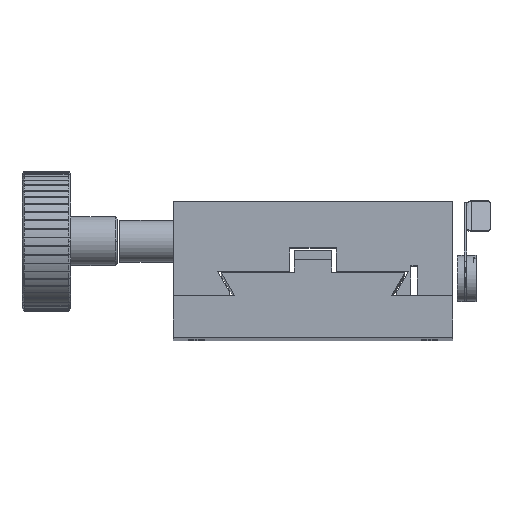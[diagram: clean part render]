
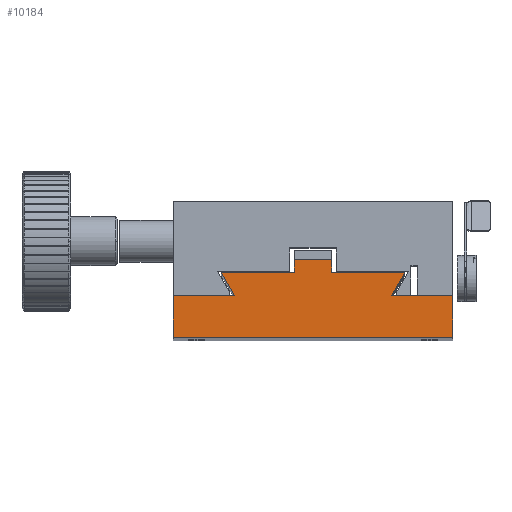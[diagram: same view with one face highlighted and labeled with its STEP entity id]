
A CAD part, top view. The second image highlights one B-rep face of the part: STEP entity #10184.
In plain terms, the highlighted planar face has unit normal (0, 0, -1).
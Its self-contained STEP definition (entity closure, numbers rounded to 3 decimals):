
#60 = LINE ( 'NONE', #8558, #4220 ) ;
#63 = CARTESIAN_POINT ( 'NONE',  ( 0.101, 8.545, 600. ) ) ;
#171 = DIRECTION ( 'NONE',  ( 1., 0., 0. ) ) ;
#310 = FACE_OUTER_BOUND ( 'NONE', #7771, .T. ) ;
#417 = ORIENTED_EDGE ( 'NONE', *, *, #874, .F. ) ;
#512 = LINE ( 'NONE', #1115, #8360 ) ;
#801 = LINE ( 'NONE', #828, #5624 ) ;
#828 = CARTESIAN_POINT ( 'NONE',  ( 26.101, -5.455, 600. ) ) ;
#869 = EDGE_CURVE ( 'NONE', #1670, #1712, #60, .T. ) ;
#874 = EDGE_CURVE ( 'NONE', #10921, #7310, #1864, .T. ) ;
#907 = DIRECTION ( 'NONE',  ( 0., 1., 0. ) ) ;
#980 = CARTESIAN_POINT ( 'NONE',  ( -3.899, -5.455, 600. ) ) ;
#1115 = CARTESIAN_POINT ( 'NONE',  ( -33.899, -5.455, 600. ) ) ;
#1134 = EDGE_CURVE ( 'NONE', #8257, #8802, #2141, .T. ) ;
#1408 = VECTOR ( 'NONE', #1958, 1000. ) ;
#1431 = ORIENTED_EDGE ( 'NONE', *, *, #869, .F. ) ;
#1670 = VERTEX_POINT ( 'NONE', #6962 ) ;
#1712 = VERTEX_POINT ( 'NONE', #5231 ) ;
#1864 = LINE ( 'NONE', #5067, #9166 ) ;
#1948 = DIRECTION ( 'NONE',  ( 0., -1., 0. ) ) ;
#1958 = DIRECTION ( 'NONE',  ( -1., 0., 0. ) ) ;
#1987 = CARTESIAN_POINT ( 'NONE',  ( -33.899, -5.455, 600. ) ) ;
#2141 = LINE ( 'NONE', #6468, #6135 ) ;
#2304 = ORIENTED_EDGE ( 'NONE', *, *, #8756, .F. ) ;
#2496 = LINE ( 'NONE', #2884, #11047 ) ;
#2543 = EDGE_CURVE ( 'NONE', #3693, #1670, #7093, .T. ) ;
#2563 = DIRECTION ( 'NONE',  ( 0.5, 0.866, 0. ) ) ;
#2565 = ORIENTED_EDGE ( 'NONE', *, *, #10262, .F. ) ;
#2734 = LINE ( 'NONE', #3757, #9465 ) ;
#2758 = CARTESIAN_POINT ( 'NONE',  ( -23.636, 8.545, 600. ) ) ;
#2884 = CARTESIAN_POINT ( 'NONE',  ( -3.899, 8.545, 600. ) ) ;
#2908 = DIRECTION ( 'NONE',  ( 0.5, -0.866, 0. ) ) ;
#3693 = VERTEX_POINT ( 'NONE', #9932 ) ;
#3694 = CARTESIAN_POINT ( 'NONE',  ( 15.838, 8.545, 600. ) ) ;
#3757 = CARTESIAN_POINT ( 'NONE',  ( -7.899, -5.455, 600. ) ) ;
#4043 = CARTESIAN_POINT ( 'NONE',  ( -33.899, -5.455, 600. ) ) ;
#4148 = ORIENTED_EDGE ( 'NONE', *, *, #10766, .F. ) ;
#4220 = VECTOR ( 'NONE', #11245, 1000. ) ;
#4391 = LINE ( 'NONE', #1987, #7676 ) ;
#4610 = VECTOR ( 'NONE', #2908, 1000. ) ;
#4720 = CARTESIAN_POINT ( 'NONE',  ( 26.101, 3.545, 600. ) ) ;
#4776 = DIRECTION ( 'NONE',  ( -1., 0., 0. ) ) ;
#4792 = CARTESIAN_POINT ( 'NONE',  ( 26.101, -5.455, 600. ) ) ;
#4905 = AXIS2_PLACEMENT_3D ( 'NONE', #980, #7145, #9817 ) ;
#5067 = CARTESIAN_POINT ( 'NONE',  ( -3.899, 11.245, 600. ) ) ;
#5169 = CARTESIAN_POINT ( 'NONE',  ( -7.899, 8.545, 600. ) ) ;
#5219 = EDGE_CURVE ( 'NONE', #1712, #5970, #512, .T. ) ;
#5231 = CARTESIAN_POINT ( 'NONE',  ( -33.899, 3.545, 600. ) ) ;
#5234 = VERTEX_POINT ( 'NONE', #4720 ) ;
#5283 = ORIENTED_EDGE ( 'NONE', *, *, #7288, .F. ) ;
#5413 = DIRECTION ( 'NONE',  ( 0., -1., 0. ) ) ;
#5510 = VERTEX_POINT ( 'NONE', #4792 ) ;
#5624 = VECTOR ( 'NONE', #907, 1000. ) ;
#5738 = CARTESIAN_POINT ( 'NONE',  ( 0.101, 11.245, 600. ) ) ;
#5838 = DIRECTION ( 'NONE',  ( -1., 0., 0. ) ) ;
#5956 = LINE ( 'NONE', #5962, #6929 ) ;
#5962 = CARTESIAN_POINT ( 'NONE',  ( 0.101, -5.455, 600. ) ) ;
#5970 = VERTEX_POINT ( 'NONE', #4043 ) ;
#5977 = VECTOR ( 'NONE', #2563, 1000. ) ;
#6067 = DIRECTION ( 'NONE',  ( 0., 1., 0. ) ) ;
#6135 = VECTOR ( 'NONE', #6348, 1000. ) ;
#6242 = LINE ( 'NONE', #8241, #1408 ) ;
#6279 = EDGE_CURVE ( 'NONE', #9784, #8257, #10097, .T. ) ;
#6348 = DIRECTION ( 'NONE',  ( -1., 0., 0. ) ) ;
#6468 = CARTESIAN_POINT ( 'NONE',  ( -3.899, 8.545, 600. ) ) ;
#6806 = ORIENTED_EDGE ( 'NONE', *, *, #11287, .F. ) ;
#6929 = VECTOR ( 'NONE', #6067, 1000. ) ;
#6962 = CARTESIAN_POINT ( 'NONE',  ( -20.749, 3.545, 600. ) ) ;
#7093 = LINE ( 'NONE', #2758, #4610 ) ;
#7145 = DIRECTION ( 'NONE',  ( 0., 0., 1. ) ) ;
#7154 = CARTESIAN_POINT ( 'NONE',  ( 12.951, 3.545, 600. ) ) ;
#7288 = EDGE_CURVE ( 'NONE', #8802, #10921, #5956, .T. ) ;
#7310 = VERTEX_POINT ( 'NONE', #11294 ) ;
#7676 = VECTOR ( 'NONE', #171, 1000. ) ;
#7771 = EDGE_LOOP ( 'NONE', ( #9001, #4148, #11063, #1431, #9176, #6806, #2304, #417, #5283, #8917, #8698, #2565 ) ) ;
#7891 = CARTESIAN_POINT ( 'NONE',  ( 12.951, 3.545, 600. ) ) ;
#7993 = PLANE ( 'NONE',  #4905 ) ;
#8241 = CARTESIAN_POINT ( 'NONE',  ( -3.899, 3.545, 600. ) ) ;
#8257 = VERTEX_POINT ( 'NONE', #3694 ) ;
#8360 = VECTOR ( 'NONE', #1948, 1000. ) ;
#8558 = CARTESIAN_POINT ( 'NONE',  ( -3.899, 3.545, 600. ) ) ;
#8656 = EDGE_CURVE ( 'NONE', #5510, #5234, #801, .T. ) ;
#8698 = ORIENTED_EDGE ( 'NONE', *, *, #6279, .F. ) ;
#8756 = EDGE_CURVE ( 'NONE', #7310, #8986, #2734, .T. ) ;
#8802 = VERTEX_POINT ( 'NONE', #63 ) ;
#8917 = ORIENTED_EDGE ( 'NONE', *, *, #1134, .F. ) ;
#8986 = VERTEX_POINT ( 'NONE', #5169 ) ;
#9001 = ORIENTED_EDGE ( 'NONE', *, *, #8656, .F. ) ;
#9166 = VECTOR ( 'NONE', #5838, 1000. ) ;
#9176 = ORIENTED_EDGE ( 'NONE', *, *, #2543, .F. ) ;
#9465 = VECTOR ( 'NONE', #5413, 1000. ) ;
#9784 = VERTEX_POINT ( 'NONE', #7154 ) ;
#9817 = DIRECTION ( 'NONE',  ( 1., 0., 0. ) ) ;
#9932 = CARTESIAN_POINT ( 'NONE',  ( -23.636, 8.545, 600. ) ) ;
#10097 = LINE ( 'NONE', #7891, #5977 ) ;
#10184 = ADVANCED_FACE ( 'NONE', ( #310 ), #7993, .F. ) ;
#10262 = EDGE_CURVE ( 'NONE', #5234, #9784, #6242, .T. ) ;
#10766 = EDGE_CURVE ( 'NONE', #5970, #5510, #4391, .T. ) ;
#10921 = VERTEX_POINT ( 'NONE', #5738 ) ;
#11047 = VECTOR ( 'NONE', #4776, 1000. ) ;
#11063 = ORIENTED_EDGE ( 'NONE', *, *, #5219, .F. ) ;
#11245 = DIRECTION ( 'NONE',  ( -1., 0., 0. ) ) ;
#11287 = EDGE_CURVE ( 'NONE', #8986, #3693, #2496, .T. ) ;
#11294 = CARTESIAN_POINT ( 'NONE',  ( -7.899, 11.245, 600. ) ) ;
